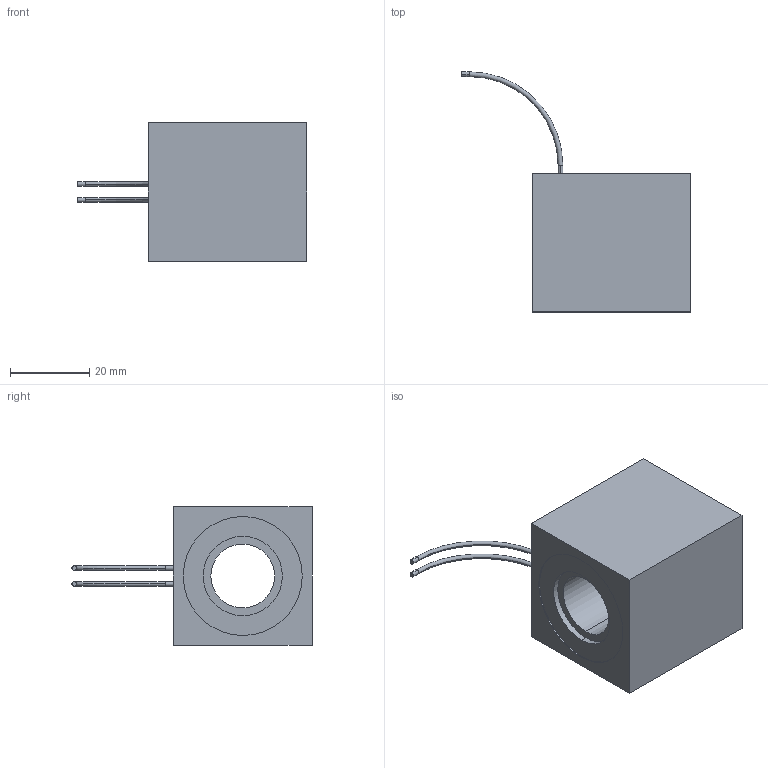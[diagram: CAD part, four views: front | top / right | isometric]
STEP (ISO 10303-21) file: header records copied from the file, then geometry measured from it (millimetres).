
FILE_DESCRIPTION (( 'STEP AP214' ), '1' );
FILE_NAME ('MLE35_16x40.STEP', '2015-07-07T06:35:40', ( '' ), ( '' ), 'SwSTEP 2.0', 'SolidWorks 2014', '' );
FILE_SCHEMA (( 'AUTOMOTIVE_DESIGN' ));
Length unit declared in the file: millimetre
Products named in the file (2): MLE35_16x40
Bounding box: 57.83 x 60.6 x 35 mm (x, y, z)
Volume: 40077 mm3; surface area: 10298.2 mm2
Topology: 3 solids, 3 shells, 50 faces, 106 edges, 70 vertices
Faces by surface type: cylinder 30, plane 14, torus 4, cone 2
Entity records: 2190 total; most frequent: CARTESIAN_POINT 441, DIRECTION 260, ORIENTED_EDGE 212, AXIS2_PLACEMENT_3D 110, EDGE_CURVE 106, VERTEX_POINT 70, EDGE_LOOP 60, CIRCLE 58
